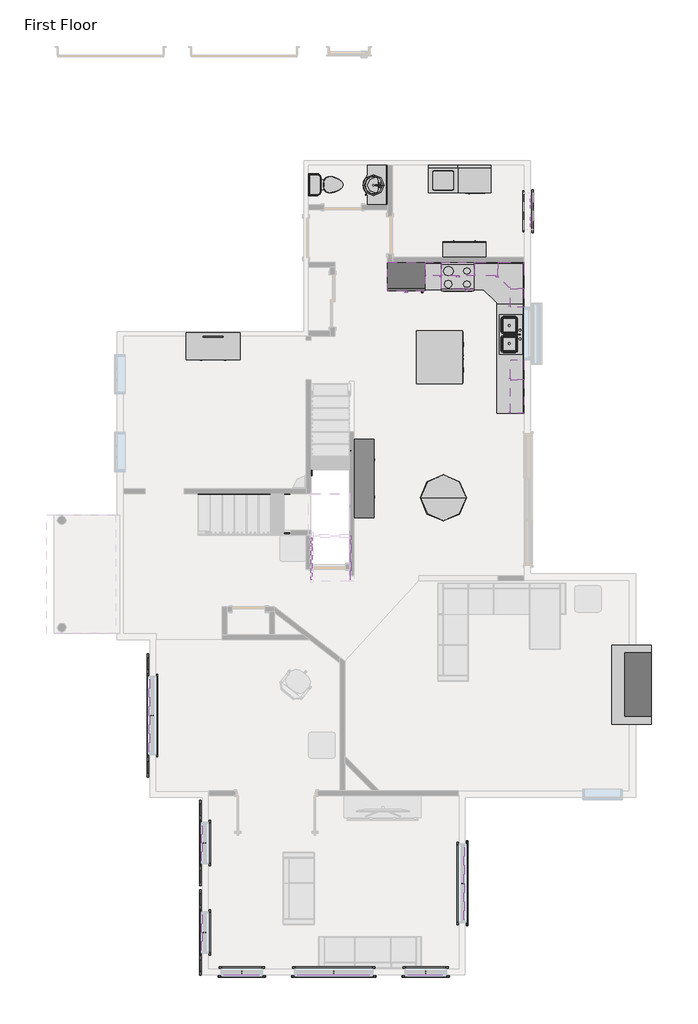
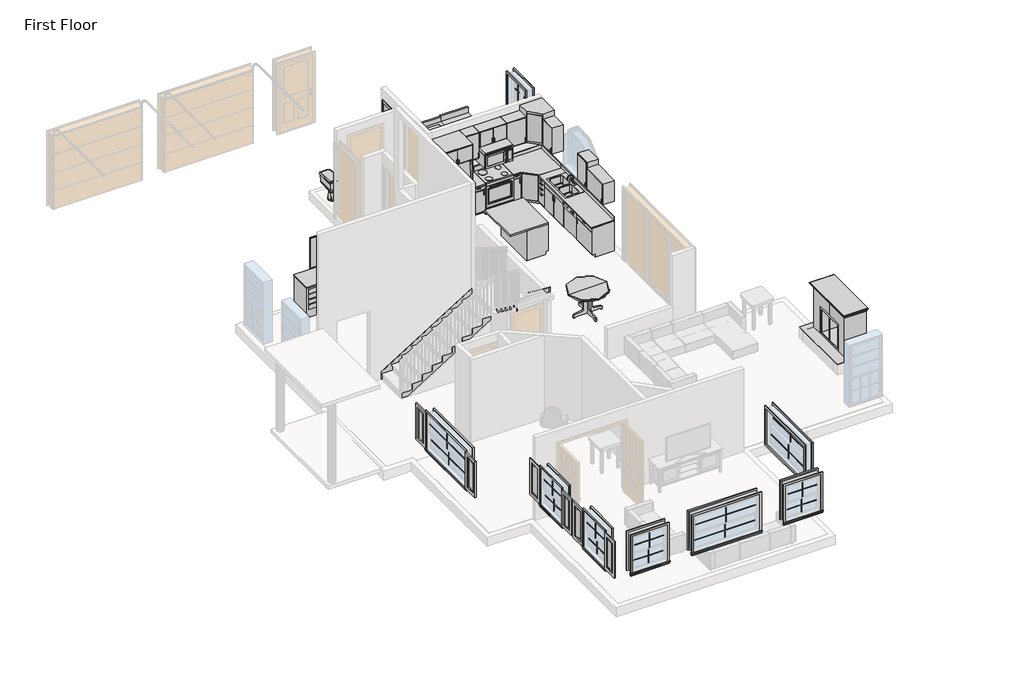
# One storey, part 3 of 3: 47 proxies, 24 furniture elements, 6 members, 2 flow terminals.
"""IFC4 building model written with IfcOpenShell, lengths in millimetres."""

from ifc_helpers import new_model, si_unit, frame, origin, place, context, project, spatial, polyline, outline, extrude, faceted_brep, transform, mapped, element, save
from components import proxy_45b28599, proxy_6b4a07a9, microwave_over_range_1483_microwave_over_range_1483_791a16b8, mirror_with_boarder_12900_mirror_with_boarder_12900_3f9398c7, muntin_pattern_2x2_muntin_pattern_2x2_7c75a8ce, muntin_pattern_2x2_muntin_pattern_2x2_8d1b6ffe, muntin_pattern_2x2_muntin_pattern_2x2_b3fe6957, muntin_pattern_2x2_muntin_pattern_2x2_3e0ecaf2, proxy_fbb4c072, proxy_033c6c51, shutter_4292_shutter_4292_2_a29cf403, stone_fireplace_14654_stone_fireplace_14654_19c01c53, trim_window_exterior_flat_with_sill_72c6e1b0, trim_window_exterior_flat_with_sill_e13d5450, trim_window_exterior_flat_with_sill_41619996, trim_window_interior_flat_picture_frame_62b75368, trim_window_interior_flat_picture_frame_689dbe4f, trim_window_interior_flat_picture_frame_51c85655, proxy_718fa39f, mirror_with_frame_739_ada_cf025913, flow_terminal_530ab181, toilet_domestic_3d_toilet_domestic_3d_f7549cf7, toilet_domestic_3d_toilet_domestic_3d_183bbd19, furniture_b0f89009, furniture_0fc2bd2a, furniture_0215fc4d, furniture_3b04147a, base_cabinet_4_drawers_03bd3035, base_cabinet_corner_unit_angled_bfd559e3, bathroom_round_vanity_1651_600x1100_34019e4a, counter_top_48_cfc3eecd, furniture_cf9d1cb4, furniture_9c8c6759, furniture_5d53dcfe, furniture_078ba9d8, furniture_7c473f12, round_table_22514_round_table_22514_44ccc18d, furniture_84be1c78, upper_cabinet_double_door_wall_2916ba14, furniture_f5f4f664, upper_cabinet_single_door_wall_1_5_1_4_63a5970b, upper_cabinet_single_door_wall_1_9_3_8_7fbd7801, furniture_13c6450d, furniture_02d81ec9, upper_cabinet_single_door_wall_2_6_3_4_3956a76a, vanity_cabinet_double_door_sink_unit_dcdcec85, wood_c3b25c64

model = new_model("IFC4")

# Units and contexts
model_context = context("Model", 3, world=origin())
ifc_project = project(units=[si_unit("LENGTHUNIT", "METRE", prefix="MILLI")], contexts=[model_context])

# Site, building, storey
site = spatial("IfcSite", under=ifc_project)
building = spatial("IfcBuilding", under=site)
storey = spatial("IfcBuildingStorey", under=building, Name="First Floor", Elevation=0.0)

# Proxies
placement = place(None, origin())
proxy_shape = proxy_45b28599(model_context)
element("IfcBuildingElementProxy", 1, Name="Dishwasher : 24\" x 24\" x 34\"", ObjectType="Dishwasher : 24\" x 24\" x 34\"", at=placement, inside=storey, context=model_context, shape_type="MappedRepresentation", body=[
    mapped(proxy_shape, transform((-1826.372664, 3218.9597382, 6.35), x_axis=(0.0, -1.0, 0.0), y_axis=(1.0, 0.0, 0.0), z_axis=(0.0, 0.0, 1.0))),
])
proxy_2_shape = proxy_6b4a07a9(model_context)
element("IfcBuildingElementProxy", 2, Name="Dryer : 30\" x 25\" x 35\"", ObjectType="Dryer : 30\" x 25\" x 35\"", at=placement, inside=storey, context=model_context, shape_type="MappedRepresentation", body=[
    mapped(proxy_2_shape, transform((-2826.3230555, 6890.7812659, 6.35), x_axis=(1.0, 0.0, 0.0), y_axis=(0.0, 1.0, 0.0), z_axis=(0.0, 0.0, 1.0))),
])
microwave_over_range_1483_microwave_over_range_1483_shape = microwave_over_range_1483_microwave_over_range_1483_791a16b8(model_context)
element("IfcBuildingElementProxy", 3, Name="Microwave_-_Over_Range_1483 : Microwave_-_Over_Range_1483", ObjectType="Microwave_-_Over_Range_1483 : Microwave_-_Over_Range_1483", at=placement, inside=storey, context=model_context, shape_type="MappedRepresentation", body=[
    mapped(microwave_over_range_1483_microwave_over_range_1483_shape, transform((-2758.4769279, 5192.5149395, 1320.8), x_axis=(1.0, 0.0, 0.0), y_axis=(0.0, 1.0, 0.0), z_axis=(0.0, 0.0, 1.0))),
])
mirror_with_boarder_12900_mirror_with_boarder_12900_shape = mirror_with_boarder_12900_mirror_with_boarder_12900_3f9398c7(model_context)
element("IfcBuildingElementProxy", 4, Name="Mirror_with_Boarder_12900 : Mirror_with_Boarder_12900", ObjectType="Mirror_with_Boarder_12900 : Mirror_with_Boarder_12900", at=placement, inside=storey, context=model_context, shape_type="MappedRepresentation", body=[
    mapped(mirror_with_boarder_12900_mirror_with_boarder_12900_shape, transform((-4369.7980992, 7067.3297697, 203.2), x_axis=(0.0, 1.0, 0.0), y_axis=(-1.0, 0.0, 0.0), z_axis=(0.0, 0.0, 1.0))),
])
muntin_pattern_2x2_muntin_pattern_2x2_shape = muntin_pattern_2x2_muntin_pattern_2x2_7c75a8ce(model_context)
element("IfcBuildingElementProxy", 5, Name="Muntin Pattern_2x2 : Muntin Pattern_2x2", ObjectType="Muntin Pattern_2x2 : Muntin Pattern_2x2", at=placement, inside=storey, context=model_context, shape_type="MappedRepresentation", body=[
    mapped(muntin_pattern_2x2_muntin_pattern_2x2_shape, transform((-8716.3730992, -8201.2452303, 1470.025), x_axis=(0.0, 1.0, 0.0), y_axis=(-1.0, 0.0, 0.0), z_axis=(0.0, 0.0, 1.0))),
])
element("IfcBuildingElementProxy", 6, Name="Muntin Pattern_2x2 : Muntin Pattern_2x2", ObjectType="Muntin Pattern_2x2 : Muntin Pattern_2x2", at=placement, inside=storey, context=model_context, shape_type="MappedRepresentation", body=[
    mapped(muntin_pattern_2x2_muntin_pattern_2x2_shape, transform((-8671.9230992, -8201.2452303, 990.6), x_axis=(0.0, 1.0, 0.0), y_axis=(-1.0, 0.0, 0.0), z_axis=(0.0, 0.0, 1.0))),
])
element("IfcBuildingElementProxy", 7, Name="Muntin Pattern_2x2 : Muntin Pattern_2x2", ObjectType="Muntin Pattern_2x2 : Muntin Pattern_2x2", at=placement, inside=storey, context=model_context, shape_type="MappedRepresentation", body=[
    mapped(muntin_pattern_2x2_muntin_pattern_2x2_shape, transform((-8716.3730992, -10277.6952303, 1470.025), x_axis=(0.0, 1.0, 0.0), y_axis=(-1.0, 0.0, 0.0), z_axis=(0.0, 0.0, 1.0))),
])
element("IfcBuildingElementProxy", 8, Name="Muntin Pattern_2x2 : Muntin Pattern_2x2", ObjectType="Muntin Pattern_2x2 : Muntin Pattern_2x2", at=placement, inside=storey, context=model_context, shape_type="MappedRepresentation", body=[
    mapped(muntin_pattern_2x2_muntin_pattern_2x2_shape, transform((-8671.9230992, -10277.6952303, 990.6), x_axis=(0.0, 1.0, 0.0), y_axis=(-1.0, 0.0, 0.0), z_axis=(0.0, 0.0, 1.0))),
])
element("IfcBuildingElementProxy", 9, Name="Muntin Pattern_2x2 : Muntin Pattern_2x2", ObjectType="Muntin Pattern_2x2 : Muntin Pattern_2x2", at=placement, inside=storey, context=model_context, shape_type="MappedRepresentation", body=[
    mapped(muntin_pattern_2x2_muntin_pattern_2x2_shape, transform((-7808.3230992, -11247.6577303, 1470.025), x_axis=(-1.0, 0.0, 0.0), y_axis=(0.0, -1.0, 0.0), z_axis=(0.0, 0.0, 1.0))),
])
element("IfcBuildingElementProxy", 10, Name="Muntin Pattern_2x2 : Muntin Pattern_2x2", ObjectType="Muntin Pattern_2x2 : Muntin Pattern_2x2", at=placement, inside=storey, context=model_context, shape_type="MappedRepresentation", body=[
    mapped(muntin_pattern_2x2_muntin_pattern_2x2_shape, transform((-7808.3230992, -11203.2077303, 990.6), x_axis=(-1.0, 0.0, 0.0), y_axis=(0.0, -1.0, 0.0), z_axis=(0.0, 0.0, 1.0))),
])
element("IfcBuildingElementProxy", 11, Name="Muntin Pattern_2x2 : Muntin Pattern_2x2", ObjectType="Muntin Pattern_2x2 : Muntin Pattern_2x2", at=placement, inside=storey, context=model_context, shape_type="MappedRepresentation", body=[
    mapped(muntin_pattern_2x2_muntin_pattern_2x2_shape, transform((-3541.1230992, -11247.6577303, 1470.025), x_axis=(-1.0, 0.0, 0.0), y_axis=(0.0, -1.0, 0.0), z_axis=(0.0, 0.0, 1.0))),
])
element("IfcBuildingElementProxy", 12, Name="Muntin Pattern_2x2 : Muntin Pattern_2x2", ObjectType="Muntin Pattern_2x2 : Muntin Pattern_2x2", at=placement, inside=storey, context=model_context, shape_type="MappedRepresentation", body=[
    mapped(muntin_pattern_2x2_muntin_pattern_2x2_shape, transform((-3541.1230992, -11203.2077303, 990.6), x_axis=(-1.0, 0.0, 0.0), y_axis=(0.0, -1.0, 0.0), z_axis=(0.0, 0.0, 1.0))),
])
muntin_pattern_2x2_muntin_pattern_2x2_2_shape = muntin_pattern_2x2_muntin_pattern_2x2_8d1b6ffe(model_context)
element("IfcBuildingElementProxy", 13, Name="Muntin Pattern_2x2 : Muntin Pattern_2x2", ObjectType="Muntin Pattern_2x2 : Muntin Pattern_2x2", at=placement, inside=storey, context=model_context, shape_type="MappedRepresentation", body=[
    mapped(muntin_pattern_2x2_muntin_pattern_2x2_2_shape, transform((-5674.7230992, -11247.6577303, 1470.025), x_axis=(-1.0, 0.0, 0.0), y_axis=(0.0, -1.0, 0.0), z_axis=(0.0, 0.0, 1.0))),
])
element("IfcBuildingElementProxy", 14, Name="Muntin Pattern_2x2 : Muntin Pattern_2x2", ObjectType="Muntin Pattern_2x2 : Muntin Pattern_2x2", at=placement, inside=storey, context=model_context, shape_type="MappedRepresentation", body=[
    mapped(muntin_pattern_2x2_muntin_pattern_2x2_2_shape, transform((-5674.7230992, -11203.2077303, 990.6), x_axis=(-1.0, 0.0, 0.0), y_axis=(0.0, -1.0, 0.0), z_axis=(0.0, 0.0, 1.0))),
])
element("IfcBuildingElementProxy", 15, Name="Muntin Pattern_2x2 : Muntin Pattern_2x2", ObjectType="Muntin Pattern_2x2 : Muntin Pattern_2x2", at=placement, inside=storey, context=model_context, shape_type="MappedRepresentation", body=[
    mapped(muntin_pattern_2x2_muntin_pattern_2x2_2_shape, transform((-2633.0730992, -9137.8702303, 1470.025), x_axis=(0.0, -1.0, 0.0), y_axis=(1.0, 0.0, 0.0), z_axis=(0.0, 0.0, 1.0))),
])
element("IfcBuildingElementProxy", 16, Name="Muntin Pattern_2x2 : Muntin Pattern_2x2", ObjectType="Muntin Pattern_2x2 : Muntin Pattern_2x2", at=placement, inside=storey, context=model_context, shape_type="MappedRepresentation", body=[
    mapped(muntin_pattern_2x2_muntin_pattern_2x2_2_shape, transform((-2677.5230992, -9137.8702303, 990.6), x_axis=(0.0, -1.0, 0.0), y_axis=(1.0, 0.0, 0.0), z_axis=(0.0, 0.0, 1.0))),
])
element("IfcBuildingElementProxy", 17, Name="Muntin Pattern_2x2 : Muntin Pattern_2x2", ObjectType="Muntin Pattern_2x2 : Muntin Pattern_2x2", at=placement, inside=storey, context=model_context, shape_type="MappedRepresentation", body=[
    mapped(muntin_pattern_2x2_muntin_pattern_2x2_2_shape, transform((-9935.5730992, -5240.5577303, 1470.025), x_axis=(0.0, 1.0, 0.0), y_axis=(-1.0, 0.0, 0.0), z_axis=(0.0, 0.0, 1.0))),
])
element("IfcBuildingElementProxy", 18, Name="Muntin Pattern_2x2 : Muntin Pattern_2x2", ObjectType="Muntin Pattern_2x2 : Muntin Pattern_2x2", at=placement, inside=storey, context=model_context, shape_type="MappedRepresentation", body=[
    mapped(muntin_pattern_2x2_muntin_pattern_2x2_2_shape, transform((-9891.1230992, -5240.5577303, 990.6), x_axis=(0.0, 1.0, 0.0), y_axis=(-1.0, 0.0, 0.0), z_axis=(0.0, 0.0, 1.0))),
])
muntin_pattern_2x2_muntin_pattern_2x2_3_shape = muntin_pattern_2x2_muntin_pattern_2x2_b3fe6957(model_context)
element("IfcBuildingElementProxy", 19, Name="Muntin Pattern_2x2 : Muntin Pattern_2x2", ObjectType="Muntin Pattern_2x2 : Muntin Pattern_2x2", at=placement, inside=storey, context=model_context, shape_type="MappedRepresentation", body=[
    mapped(muntin_pattern_2x2_muntin_pattern_2x2_3_shape, transform((-1083.6730992, 6672.0422697, 1289.05), x_axis=(0.0, -1.0, 0.0), y_axis=(1.0, 0.0, 0.0), z_axis=(0.0, 0.0, 1.0))),
])
muntin_pattern_2x2_muntin_pattern_2x2_4_shape = muntin_pattern_2x2_muntin_pattern_2x2_3e0ecaf2(model_context)
element("IfcBuildingElementProxy", 20, Name="Muntin Pattern_2x2 : Muntin Pattern_2x2", ObjectType="Muntin Pattern_2x2 : Muntin Pattern_2x2", at=placement, inside=storey, context=model_context, shape_type="MappedRepresentation", body=[
    mapped(muntin_pattern_2x2_muntin_pattern_2x2_4_shape, transform((-1083.6730992, 6243.4172697, 1289.05), x_axis=(0.0, 1.0, 0.0), y_axis=(-1.0, 0.0, 0.0), z_axis=(0.0, 0.0, 1.0))),
])
proxy_3_shape = proxy_fbb4c072(model_context)
element("IfcBuildingElementProxy", 21, Name="Range : 30\" x 26\"", ObjectType="Range : 30\" x 26\"", at=placement, inside=storey, context=model_context, shape_type="MappedRepresentation", body=[
    mapped(proxy_3_shape, transform((-3177.6499204, 4614.6422697, 6.35), x_axis=(1.0, 0.0, 0.0), y_axis=(0.0, 1.0, 0.0), z_axis=(0.0, 0.0, 1.0))),
])
proxy_4_shape = proxy_033c6c51(model_context)
element("IfcBuildingElementProxy", 22, Name="Refrigerator : 35\" x 26\" RH", ObjectType="Refrigerator : 35\" x 26\" RH", at=placement, inside=storey, context=model_context, shape_type="MappedRepresentation", body=[
    mapped(proxy_4_shape, transform((-3988.7980992, 4959.5182982, 0.0), x_axis=(1.0, 0.0, 0.0), y_axis=(0.0, 1.0, 0.0), z_axis=(0.0, 0.0, 1.0))),
])
shutter_4292_shutter_4292_2_shape = shutter_4292_shutter_4292_2_a29cf403(model_context)
element("IfcBuildingElementProxy", 23, Name="Shutter_4292 : Shutter_4292 2", ObjectType="Shutter_4292 : Shutter_4292 2", at=placement, inside=storey, context=model_context, shape_type="MappedRepresentation", body=[
    mapped(shutter_4292_shutter_4292_2_shape, transform((-9880.0105992, -6213.6952303, 0.0), x_axis=(0.0, 1.0, 0.0), y_axis=(-1.0, 0.0, 0.0), z_axis=(0.0, 0.0, 1.0))),
])
element("IfcBuildingElementProxy", 24, Name="Shutter_4292 : Shutter_4292 2", ObjectType="Shutter_4292 : Shutter_4292 2", at=placement, inside=storey, context=model_context, shape_type="MappedRepresentation", body=[
    mapped(shutter_4292_shutter_4292_2_shape, transform((-9880.0105992, -3813.3952303, 0.0), x_axis=(0.0, 1.0, 0.0), y_axis=(-1.0, 0.0, 0.0), z_axis=(0.0, 0.0, 1.0))),
])
element("IfcBuildingElementProxy", 25, Name="Shutter_4292 : Shutter_4292 2", ObjectType="Shutter_4292 : Shutter_4292 2", at=placement, inside=storey, context=model_context, shape_type="MappedRepresentation", body=[
    mapped(shutter_4292_shutter_4292_2_shape, transform((-8660.8105992, -8740.9952303, 0.0), x_axis=(0.0, 1.0, 0.0), y_axis=(-1.0, 0.0, 0.0), z_axis=(0.0, 0.0, 1.0))),
])
element("IfcBuildingElementProxy", 26, Name="Shutter_4292 : Shutter_4292 2", ObjectType="Shutter_4292 : Shutter_4292 2", at=placement, inside=storey, context=model_context, shape_type="MappedRepresentation", body=[
    mapped(shutter_4292_shutter_4292_2_shape, transform((-8660.8105992, -10817.4452303, 0.0), x_axis=(0.0, 1.0, 0.0), y_axis=(-1.0, 0.0, 0.0), z_axis=(0.0, 0.0, 1.0))),
])
element("IfcBuildingElementProxy", 27, Name="Shutter_4292 : Shutter_4292 2", ObjectType="Shutter_4292 : Shutter_4292 2", at=placement, inside=storey, context=model_context, shape_type="MappedRepresentation", body=[
    mapped(shutter_4292_shutter_4292_2_shape, transform((-8660.8105992, -9280.7452303, 0.0), x_axis=(0.0, 1.0, 0.0), y_axis=(-1.0, 0.0, 0.0), z_axis=(0.0, 0.0, 1.0))),
])
element("IfcBuildingElementProxy", 28, Name="Shutter_4292 : Shutter_4292 2", ObjectType="Shutter_4292 : Shutter_4292 2", at=placement, inside=storey, context=model_context, shape_type="MappedRepresentation", body=[
    mapped(shutter_4292_shutter_4292_2_shape, transform((-8660.8105992, -7204.2952303, 0.0), x_axis=(0.0, 1.0, 0.0), y_axis=(-1.0, 0.0, 0.0), z_axis=(0.0, 0.0, 1.0))),
])
stone_fireplace_14654_stone_fireplace_14654_shape = stone_fireplace_14654_stone_fireplace_14654_19c01c53(model_context)
element("IfcBuildingElementProxy", 29, Name="Stone_fireplace_14654 : Stone_fireplace_14654", ObjectType="Stone_fireplace_14654 : Stone_fireplace_14654", at=placement, inside=storey, context=model_context, shape_type="MappedRepresentation", body=[
    mapped(stone_fireplace_14654_stone_fireplace_14654_shape, transform((1240.4269008, -4526.1827303, 311.15), x_axis=(0.0, -1.0, 0.0), y_axis=(1.0, 0.0, 0.0), z_axis=(0.0, 0.0, 1.0))),
])
trim_window_exterior_flat_with_sill_shape = trim_window_exterior_flat_with_sill_72c6e1b0(model_context)
element("IfcBuildingElementProxy", 30, Name="Trim-Window-Exterior-Flat : with Sill", ObjectType="Trim-Window-Exterior-Flat : with Sill", at=placement, inside=storey, context=model_context, shape_type="MappedRepresentation", body=[
    mapped(trim_window_exterior_flat_with_sill_shape, transform((-8751.2980992, -8201.2452303, 1981.2), x_axis=(0.0, -1.0, 0.0), y_axis=(0.0, 0.0, 1.0), z_axis=(-1.0, 0.0, 0.0))),
])
element("IfcBuildingElementProxy", 31, Name="Trim-Window-Exterior-Flat : with Sill", ObjectType="Trim-Window-Exterior-Flat : with Sill", at=placement, inside=storey, context=model_context, shape_type="MappedRepresentation", body=[
    mapped(trim_window_exterior_flat_with_sill_shape, transform((-8751.2980992, -10277.6952303, 1981.2), x_axis=(0.0, -1.0, 0.0), y_axis=(0.0, 0.0, 1.0), z_axis=(-1.0, 0.0, 0.0))),
])
element("IfcBuildingElementProxy", 32, Name="Trim-Window-Exterior-Flat : with Sill", ObjectType="Trim-Window-Exterior-Flat : with Sill", at=placement, inside=storey, context=model_context, shape_type="MappedRepresentation", body=[
    mapped(trim_window_exterior_flat_with_sill_shape, transform((-7808.3230992, -11282.5827303, 1981.2), x_axis=(1.0, 0.0, 0.0), y_axis=(0.0, 0.0, 1.0), z_axis=(0.0, -1.0, 0.0))),
])
element("IfcBuildingElementProxy", 33, Name="Trim-Window-Exterior-Flat : with Sill", ObjectType="Trim-Window-Exterior-Flat : with Sill", at=placement, inside=storey, context=model_context, shape_type="MappedRepresentation", body=[
    mapped(trim_window_exterior_flat_with_sill_shape, transform((-3541.1230992, -11282.5827303, 1981.2), x_axis=(1.0, 0.0, 0.0), y_axis=(0.0, 0.0, 1.0), z_axis=(0.0, -1.0, 0.0))),
])
trim_window_exterior_flat_with_sill_2_shape = trim_window_exterior_flat_with_sill_e13d5450(model_context)
element("IfcBuildingElementProxy", 34, Name="Trim-Window-Exterior-Flat : with Sill", ObjectType="Trim-Window-Exterior-Flat : with Sill", at=placement, inside=storey, context=model_context, shape_type="MappedRepresentation", body=[
    mapped(trim_window_exterior_flat_with_sill_2_shape, transform((-5674.7230992, -11282.5827303, 1981.2), x_axis=(1.0, 0.0, 0.0), y_axis=(0.0, 0.0, 1.0), z_axis=(0.0, -1.0, 0.0))),
])
element("IfcBuildingElementProxy", 35, Name="Trim-Window-Exterior-Flat : with Sill", ObjectType="Trim-Window-Exterior-Flat : with Sill", at=placement, inside=storey, context=model_context, shape_type="MappedRepresentation", body=[
    mapped(trim_window_exterior_flat_with_sill_2_shape, transform((-2598.1480992, -9137.8702303, 1981.2), x_axis=(0.0, 1.0, 0.0), y_axis=(0.0, 0.0, 1.0), z_axis=(1.0, 0.0, 0.0))),
])
element("IfcBuildingElementProxy", 36, Name="Trim-Window-Exterior-Flat : with Sill", ObjectType="Trim-Window-Exterior-Flat : with Sill", at=placement, inside=storey, context=model_context, shape_type="MappedRepresentation", body=[
    mapped(trim_window_exterior_flat_with_sill_2_shape, transform((-9970.4980992, -5240.5577303, 1981.2), x_axis=(0.0, -1.0, 0.0), y_axis=(0.0, 0.0, 1.0), z_axis=(-1.0, 0.0, 0.0))),
])
trim_window_exterior_flat_with_sill_3_shape = trim_window_exterior_flat_with_sill_41619996(model_context)
element("IfcBuildingElementProxy", 37, Name="Trim-Window-Exterior-Flat : with Sill", ObjectType="Trim-Window-Exterior-Flat : with Sill", at=placement, inside=storey, context=model_context, shape_type="MappedRepresentation", body=[
    mapped(trim_window_exterior_flat_with_sill_3_shape, transform((-1074.1480992, 6457.7297697, 2133.6), x_axis=(0.0, 1.0, 0.0), y_axis=(0.0, 0.0, 1.0), z_axis=(1.0, 0.0, 0.0))),
])
trim_window_interior_flat_picture_frame_shape = trim_window_interior_flat_picture_frame_62b75368(model_context)
element("IfcBuildingElementProxy", 38, Name="Trim-Window-Interior-Flat : Picture Frame", ObjectType="Trim-Window-Interior-Flat : Picture Frame", at=placement, inside=storey, context=model_context, shape_type="MappedRepresentation", body=[
    mapped(trim_window_interior_flat_picture_frame_shape, transform((-8570.3230992, -8201.2452303, 1981.2), x_axis=(0.0, 1.0, 0.0), y_axis=(0.0, 0.0, 1.0), z_axis=(1.0, 0.0, 0.0))),
])
element("IfcBuildingElementProxy", 39, Name="Trim-Window-Interior-Flat : Picture Frame", ObjectType="Trim-Window-Interior-Flat : Picture Frame", at=placement, inside=storey, context=model_context, shape_type="MappedRepresentation", body=[
    mapped(trim_window_interior_flat_picture_frame_shape, transform((-8570.3230992, -10277.6952303, 1981.2), x_axis=(0.0, 1.0, 0.0), y_axis=(0.0, 0.0, 1.0), z_axis=(1.0, 0.0, 0.0))),
])
element("IfcBuildingElementProxy", 40, Name="Trim-Window-Interior-Flat : Picture Frame", ObjectType="Trim-Window-Interior-Flat : Picture Frame", at=placement, inside=storey, context=model_context, shape_type="MappedRepresentation", body=[
    mapped(trim_window_interior_flat_picture_frame_shape, transform((-7808.3230992, -11101.6077303, 1981.2), x_axis=(-1.0, 0.0, 0.0), y_axis=(0.0, 0.0, 1.0), z_axis=(0.0, 1.0, 0.0))),
])
element("IfcBuildingElementProxy", 41, Name="Trim-Window-Interior-Flat : Picture Frame", ObjectType="Trim-Window-Interior-Flat : Picture Frame", at=placement, inside=storey, context=model_context, shape_type="MappedRepresentation", body=[
    mapped(trim_window_interior_flat_picture_frame_shape, transform((-3541.1230992, -11101.6077303, 1981.2), x_axis=(-1.0, 0.0, 0.0), y_axis=(0.0, 0.0, 1.0), z_axis=(0.0, 1.0, 0.0))),
])
trim_window_interior_flat_picture_frame_2_shape = trim_window_interior_flat_picture_frame_689dbe4f(model_context)
element("IfcBuildingElementProxy", 42, Name="Trim-Window-Interior-Flat : Picture Frame", ObjectType="Trim-Window-Interior-Flat : Picture Frame", at=placement, inside=storey, context=model_context, shape_type="MappedRepresentation", body=[
    mapped(trim_window_interior_flat_picture_frame_2_shape, transform((-5674.7230992, -11101.6077303, 1981.2), x_axis=(-1.0, 0.0, 0.0), y_axis=(0.0, 0.0, 1.0), z_axis=(0.0, 1.0, 0.0))),
])
element("IfcBuildingElementProxy", 43, Name="Trim-Window-Interior-Flat : Picture Frame", ObjectType="Trim-Window-Interior-Flat : Picture Frame", at=placement, inside=storey, context=model_context, shape_type="MappedRepresentation", body=[
    mapped(trim_window_interior_flat_picture_frame_2_shape, transform((-2779.1230992, -9137.8702303, 1981.2), x_axis=(0.0, -1.0, 0.0), y_axis=(0.0, 0.0, 1.0), z_axis=(-1.0, 0.0, 0.0))),
])
element("IfcBuildingElementProxy", 44, Name="Trim-Window-Interior-Flat : Picture Frame", ObjectType="Trim-Window-Interior-Flat : Picture Frame", at=placement, inside=storey, context=model_context, shape_type="MappedRepresentation", body=[
    mapped(trim_window_interior_flat_picture_frame_2_shape, transform((-9789.5230992, -5240.5577303, 1981.2), x_axis=(0.0, 1.0, 0.0), y_axis=(0.0, 0.0, 1.0), z_axis=(1.0, 0.0, 0.0))),
])
trim_window_interior_flat_picture_frame_3_shape = trim_window_interior_flat_picture_frame_51c85655(model_context)
element("IfcBuildingElementProxy", 45, Name="Trim-Window-Interior-Flat : Picture Frame", ObjectType="Trim-Window-Interior-Flat : Picture Frame", at=placement, inside=storey, context=model_context, shape_type="MappedRepresentation", body=[
    mapped(trim_window_interior_flat_picture_frame_3_shape, transform((-1255.1230992, 6457.7297697, 2133.6), x_axis=(0.0, -1.0, 0.0), y_axis=(0.0, 0.0, 1.0), z_axis=(-1.0, 0.0, 0.0))),
])
proxy_5_shape = proxy_718fa39f(model_context)
element("IfcBuildingElementProxy", 46, Name="Washer : 27\" x 25\" x 35\"", ObjectType="Washer : 27\" x 25\" x 35\"", at=placement, inside=storey, context=model_context, shape_type="MappedRepresentation", body=[
    mapped(proxy_5_shape, transform((-3553.5530677, 6926.2927049, 6.35), x_axis=(1.0, 0.0, 0.0), y_axis=(0.0, 1.0, 0.0), z_axis=(0.0, 0.0, 1.0))),
])
mirror_with_frame_739_ada_shape = mirror_with_frame_739_ada_cf025913(model_context)
element("IfcBuildingElementProxy", 47, Name="mirror_with_frame_739 : ADA", ObjectType="mirror_with_frame_739 : ADA", at=placement, inside=storey, context=model_context, shape_type="MappedRepresentation", body=[
    mapped(mirror_with_frame_739_ada_shape, transform((-8452.1902981, 3620.8672697, 0.0), x_axis=(-1.0, 0.0, 0.0), y_axis=(0.0, -1.0, 0.0), z_axis=(0.0, 0.0, 1.0))),
])

# Flow terminals
flow_terminal_shape = flow_terminal_530ab181(model_context)
element("IfcFlowTerminal", 48, ObjectType="Sink Kitchen-Double : 42\" x 21\"", at=placement, inside=storey, context=model_context, shape_type="MappedRepresentation", body=[
    mapped(flow_terminal_shape, transform((-1562.2685003, 3614.3315102, 6.35), x_axis=(0.0, -1.0, 0.0), y_axis=(1.0, 0.0, 0.0), z_axis=(0.0, 0.0, 1.0))),
])
toilet_domestic_3d_toilet_domestic_3d_shape = toilet_domestic_3d_toilet_domestic_3d_f7549cf7(model_context)
toilet_domestic_3d_toilet_domestic_3d_2_shape = toilet_domestic_3d_toilet_domestic_3d_183bbd19(model_context)
element("IfcFlowTerminal", 49, ObjectType="Toilet-Domestic-3D : Toilet-Domestic-3D", at=placement, inside=storey, context=model_context, shape_type="MappedRepresentation", body=[
    mapped(toilet_domestic_3d_toilet_domestic_3d_shape, transform((-5760.4480992, 7075.2672697, 6.35), x_axis=(0.0, 1.0, 0.0), y_axis=(-1.0, 0.0, 0.0), z_axis=(0.0, 0.0, 1.0))),
    mapped(toilet_domestic_3d_toilet_domestic_3d_2_shape, transform((-5760.4480992, 7075.2672697, 6.35), x_axis=(0.0, 1.0, 0.0), y_axis=(-1.0, 0.0, 0.0), z_axis=(0.0, 0.0, 1.0))),
])

# Furniture
furniture_shape = furniture_b0f89009(model_context)
element("IfcFurniture", 50, ObjectType="Base Cabinet-Single Door & Drawer : WOODER", at=placement, inside=storey, context=model_context, shape_type="MappedRepresentation", body=[
    mapped(furniture_shape, transform((-2311.3563753, 5275.0422697, 6.35), x_axis=(1.0, 0.0, 0.0), y_axis=(0.0, 1.0, 0.0), z_axis=(0.0, 0.0, 1.0))),
])
furniture_2_shape = furniture_0fc2bd2a(model_context)
element("IfcFurniture", 51, ObjectType="Base Cabinet-Single Door & Drawer : WOODE", at=placement, inside=storey, context=model_context, shape_type="MappedRepresentation", body=[
    mapped(furniture_2_shape, transform((-3378.8858041, 5275.0422697, 6.35), x_axis=(1.0, 0.0, 0.0), y_axis=(0.0, 1.0, 0.0), z_axis=(0.0, 0.0, 1.0))),
])
furniture_3_shape = furniture_0215fc4d(model_context)
element("IfcFurniture", 52, ObjectType="IKEA_low_level_drawer_unit_6409.0001 : IKEA_low_level_drawer_unit_6409.0001", at=placement, inside=storey, context=model_context, shape_type="MappedRepresentation", body=[
    mapped(furniture_3_shape, transform((-2637.8355992, 5736.3422697, 6.35), x_axis=(-1.0, 0.0, 0.0), y_axis=(0.0, -1.0, 0.0), z_axis=(0.0, 0.0, 1.0))),
])
furniture_4_shape = furniture_3b04147a(model_context)
element("IfcFurniture", 53, ObjectType="Base Cabinet-Double Door & 2 Drawer : 48\"", at=placement, inside=storey, context=model_context, shape_type="MappedRepresentation", body=[
    mapped(furniture_4_shape, transform((-3298.2355992, 3090.3299746, 6.35), x_axis=(0.0, -1.0, 0.0), y_axis=(1.0, 0.0, 0.0), z_axis=(0.0, 0.0, 1.0))),
])
base_cabinet_4_drawers_shape = base_cabinet_4_drawers_03bd3035(model_context)
element("IfcFurniture", 54, ObjectType="Base Cabinet-4 Drawers : WOODF", at=placement, inside=storey, context=model_context, shape_type="MappedRepresentation", body=[
    mapped(base_cabinet_4_drawers_shape, transform((-1255.1230992, 4226.9799746, 6.35), x_axis=(0.0, -1.0, 0.0), y_axis=(1.0, 0.0, 0.0), z_axis=(0.0, 0.0, 1.0))),
])
base_cabinet_corner_unit_angled_shape = base_cabinet_corner_unit_angled_bfd559e3(model_context)
element("IfcFurniture", 55, ObjectType="Base Cabinet-Corner Unit-Angled : WOODWFR", at=placement, inside=storey, context=model_context, shape_type="MappedRepresentation", body=[
    mapped(base_cabinet_corner_unit_angled_shape, transform((-1781.8608041, 5275.0422697, 6.35), x_axis=(1.0, 0.0, 0.0), y_axis=(0.0, 1.0, 0.0), z_axis=(0.0, 0.0, 1.0))),
])
bathroom_round_vanity_1651_600x1100_shape = bathroom_round_vanity_1651_600x1100_34019e4a(model_context)
element("IfcFurniture", 56, ObjectType="Bathroom_Round_Vanity_1651 : 600x1100", at=placement, inside=storey, context=model_context, shape_type="MappedRepresentation", body=[
    mapped(bathroom_round_vanity_1651_600x1100_shape, transform((-4426.9480992, 7160.6799746, 6.35), x_axis=(0.0, -1.0, 0.0), y_axis=(1.0, 0.0, 0.0), z_axis=(0.0, 0.0, 1.0))),
])
counter_top_48_shape = counter_top_48_cfc3eecd(model_context)
element("IfcFurniture", 57, ObjectType="Counter Top : 48", at=placement, inside=storey, context=model_context, shape_type="MappedRepresentation", body=[
    mapped(counter_top_48_shape, transform((-3755.4355992, 3662.4545647, 6.35), x_axis=(0.0, 1.0, 0.0), y_axis=(-1.0, 0.0, 0.0), z_axis=(0.0, 0.0, 1.0))),
])
furniture_5_shape = furniture_cf9d1cb4(model_context)
element("IfcFurniture", 58, ObjectType="Counter Top w Sink Hole : 24\" Depth", at=placement, inside=storey, context=model_context, shape_type="MappedRepresentation", body=[
    mapped(furniture_5_shape, transform((-1255.1230992, 3099.8549746, 6.35), x_axis=(0.0, -1.0, 0.0), y_axis=(1.0, 0.0, 0.0), z_axis=(0.0, 0.0, 1.0))),
])
furniture_6_shape = furniture_9c8c6759(model_context)
element("IfcFurniture", 59, ObjectType="Counter Top-L Shaped 2 : 24\" Depth", at=placement, inside=storey, context=model_context, shape_type="MappedRepresentation", body=[
    mapped(furniture_6_shape, transform((-1255.1230992, 4074.5799746, 6.35), x_axis=(0.0, -1.0, 0.0), y_axis=(1.0, 0.0, 0.0), z_axis=(0.0, 0.0, 1.0))),
])
furniture_7_shape = furniture_5d53dcfe(model_context)
element("IfcFurniture", 60, ObjectType="Counter Top.0001 : 24\" Depth", at=placement, inside=storey, context=model_context, shape_type="MappedRepresentation", body=[
    mapped(furniture_7_shape, transform((-2350.1858041, 5275.0422697, 6.35), x_axis=(1.0, 0.0, 0.0), y_axis=(0.0, 1.0, 0.0), z_axis=(0.0, 0.0, 1.0))),
])
furniture_8_shape = furniture_078ba9d8(model_context)
element("IfcFurniture", 61, ObjectType="Dresser : 48\" x 60\" x 24\" 2", at=placement, inside=storey, context=model_context, shape_type="MappedRepresentation", body=[
    mapped(furniture_8_shape, transform((-8205.8798394, 3695.1052238, 6.35), x_axis=(1.0, 0.0, 0.0), y_axis=(0.0, 1.0, 0.0), z_axis=(0.0, 0.0, 1.0))),
])
furniture_9_shape = furniture_7c473f12(model_context)
element("IfcFurniture", 62, ObjectType="Dresser : 72\" x 60\" x 18\"", at=placement, inside=storey, context=model_context, shape_type="MappedRepresentation", body=[
    mapped(furniture_9_shape, transform((-5333.0360533, 529.0232473, 6.35), x_axis=(0.0, 1.0, 0.0), y_axis=(-1.0, 0.0, 0.0), z_axis=(0.0, 0.0, 1.0))),
])
round_table_22514_round_table_22514_shape = round_table_22514_round_table_22514_44ccc18d(model_context)
element("IfcFurniture", 63, ObjectType="Round_Table_22514 : Round_Table_22514", at=placement, inside=storey, context=model_context, shape_type="MappedRepresentation", body=[
    mapped(round_table_22514_round_table_22514_shape, transform((-3127.2592668, -189.1327303, 6.35), x_axis=(1.0, 0.0, 0.0), y_axis=(0.0, 1.0, 0.0), z_axis=(0.0, 0.0, 1.0))),
])
furniture_10_shape = furniture_84be1c78(model_context)
element("IfcFurniture", 64, ObjectType="Upper Cabinet-Corner Unit-Wall : 12\" Depth Tall", at=placement, inside=storey, context=model_context, shape_type="MappedRepresentation", body=[
    mapped(furniture_10_shape, transform((-1301.5519364, 5332.1922697, 254.0), x_axis=(-1.0, 0.0, 0.0), y_axis=(0.0, -1.0, 0.0), z_axis=(0.0, 0.0, 1.0))),
])
upper_cabinet_double_door_wall_shape = upper_cabinet_double_door_wall_2916ba14(model_context)
element("IfcFurniture", 65, ObjectType="Upper Cabinet-Double Door-Wall : 34 1/2\" Thiccc", at=placement, inside=storey, context=model_context, shape_type="MappedRepresentation", body=[
    mapped(upper_cabinet_double_door_wall_shape, transform((-3959.0269364, 5332.1922697, 101.6), x_axis=(-1.0, 0.0, 0.0), y_axis=(0.0, -1.0, 0.0), z_axis=(0.0, 0.0, 1.0))),
])
furniture_11_shape = furniture_f5f4f664(model_context)
element("IfcFurniture", 66, ObjectType="Upper Cabinet-Double Door-Wall : 30\" Short", at=placement, inside=storey, context=model_context, shape_type="MappedRepresentation", body=[
    mapped(furniture_11_shape, transform((-2758.8769364, 5332.1922697, 101.6), x_axis=(-1.0, 0.0, 0.0), y_axis=(0.0, -1.0, 0.0), z_axis=(0.0, 0.0, 1.0))),
])
upper_cabinet_single_door_wall_1_5_1_4_shape = upper_cabinet_single_door_wall_1_5_1_4_63a5970b(model_context)
element("IfcFurniture", 67, ObjectType="Upper Cabinet-Single Door-Wall : 1 5 1/4", at=placement, inside=storey, context=model_context, shape_type="MappedRepresentation", body=[
    mapped(upper_cabinet_single_door_wall_1_5_1_4_shape, transform((-1164.6355992, 4416.5961069, 101.6), x_axis=(0.0, 1.0, 0.0), y_axis=(-1.0, 0.0, 0.0), z_axis=(0.0, 0.0, 1.0))),
])
upper_cabinet_single_door_wall_1_9_3_8_shape = upper_cabinet_single_door_wall_1_9_3_8_7fbd7801(model_context)
element("IfcFurniture", 68, ObjectType="Upper Cabinet-Single Door-Wall : 1 9 3/8", at=placement, inside=storey, context=model_context, shape_type="MappedRepresentation", body=[
    mapped(upper_cabinet_single_door_wall_1_9_3_8_shape, transform((-2106.4144364, 5332.1922697, 101.6), x_axis=(-1.0, 0.0, 0.0), y_axis=(0.0, -1.0, 0.0), z_axis=(0.0, 0.0, 1.0))),
])
furniture_12_shape = furniture_13c6450d(model_context)
element("IfcFurniture", 69, ObjectType="Upper Cabinet-Single Door-Wall : 15\"", at=placement, inside=storey, context=model_context, shape_type="MappedRepresentation", body=[
    mapped(furniture_12_shape, transform((-3330.3769364, 5332.1922697, 101.6), x_axis=(-1.0, 0.0, 0.0), y_axis=(0.0, -1.0, 0.0), z_axis=(0.0, 0.0, 1.0))),
])
furniture_13_shape = furniture_02d81ec9(model_context)
element("IfcFurniture", 70, ObjectType="Upper Cabinet-Single Door-Wall : 18\"", at=placement, inside=storey, context=model_context, shape_type="MappedRepresentation", body=[
    mapped(furniture_13_shape, transform((-1164.6355992, 2749.7211069, 101.6), x_axis=(0.0, 1.0, 0.0), y_axis=(-1.0, 0.0, 0.0), z_axis=(0.0, 0.0, 1.0))),
])
upper_cabinet_single_door_wall_2_6_3_4_shape = upper_cabinet_single_door_wall_2_6_3_4_3956a76a(model_context)
element("IfcFurniture", 71, ObjectType="Upper Cabinet-Single Door-Wall : 2 6 3/4", at=placement, inside=storey, context=model_context, shape_type="MappedRepresentation", body=[
    mapped(upper_cabinet_single_door_wall_2_6_3_4_shape, transform((-1164.6355992, 2130.5961069, -50.8), x_axis=(0.0, 1.0, 0.0), y_axis=(-1.0, 0.0, 0.0), z_axis=(0.0, 0.0, 1.0))),
])
vanity_cabinet_double_door_sink_unit_shape = vanity_cabinet_double_door_sink_unit_dcdcec85(model_context)
element("IfcFurniture", 72, ObjectType="Vanity Cabinet-Double Door Sink Unit : wOOD", at=placement, inside=storey, context=model_context, shape_type="MappedRepresentation", body=[
    mapped(vanity_cabinet_double_door_sink_unit_shape, transform((-1255.1230992, 3617.3799746, 6.35), x_axis=(0.0, -1.0, 0.0), y_axis=(1.0, 0.0, 0.0), z_axis=(0.0, 0.0, 1.0))),
])
wood_shape = wood_c3b25c64(model_context)
element("IfcFurniture", 73, ObjectType="Base Cabinet-Single Door & Drawer : Wood", at=placement, inside=storey, context=model_context, shape_type="MappedRepresentation", body=[
    mapped(wood_shape, transform((-1255.1230992, 2132.1045647, 6.35), x_axis=(0.0, 1.0, 0.0), y_axis=(-1.0, 0.0, 0.0), z_axis=(0.0, 0.0, 1.0))),
])

# Members
element("IfcMember", 74, ObjectType="Carriage - Wood - 3/4\" Width 2 1/2\" Depth", at=placement, inside=storey, context=model_context, shape_type="Brep", body=[
    faceted_brep([(-8777.8412574, -1003.5202303, 0.0), (-8617.0594155, -1003.5202303, 0.0), (-8617.0594155, -1022.5702303, 0.0), (-8777.8412574, -1022.5702303, 0.0), (-6307.6912574, -1022.5702303, 1439.6061246), (-6307.6912574, -1003.5202303, 1439.6061246), (-6307.6912574, -1003.5202303, 1542.1428571), (-6307.6912574, -1022.5702303, 1542.1428571), (-6542.6412574, -1022.5702303, 1293.1437869), (-6822.0412574, -1022.5702303, 1118.9723583), (-7101.4412574, -1022.5702303, 944.8009298), (-7380.8412574, -1022.5702303, 770.6295012), (-7660.2412574, -1022.5702303, 596.4580726), (-7939.6412574, -1022.5702303, 422.286644), (-8219.0412574, -1022.5702303, 248.1152155), (-8498.4412574, -1022.5702303, 73.9437869), (-8777.8412574, -1003.5202303, 148.7714286), (-8498.4412574, -1003.5202303, 148.7714286), (-8498.4412574, -1003.5202303, 322.9428571), (-8219.0412574, -1003.5202303, 322.9428571), (-8219.0412574, -1003.5202303, 497.1142857), (-7939.6412574, -1003.5202303, 497.1142857), (-7939.6412574, -1003.5202303, 671.2857143), (-7660.2412574, -1003.5202303, 671.2857143), (-7660.2412574, -1003.5202303, 845.4571429), (-7380.8412574, -1003.5202303, 845.4571429), (-7380.8412574, -1003.5202303, 1019.6285714), (-7101.4412574, -1003.5202303, 1019.6285714), (-7101.4412574, -1003.5202303, 1193.8), (-6822.0412574, -1003.5202303, 1193.8), (-6822.0412574, -1003.5202303, 1367.9714286), (-6542.6412574, -1003.5202303, 1367.9714286), (-6542.6412574, -1003.5202303, 1542.1428571), (-6542.6412574, -1022.5702303, 1542.1428571), (-6542.6412574, -1022.5702303, 1367.9714286), (-6822.0412574, -1022.5702303, 1367.9714286), (-6822.0412574, -1022.5702303, 1193.8), (-7101.4412574, -1022.5702303, 1193.8), (-7101.4412574, -1022.5702303, 1019.6285714), (-7380.8412574, -1022.5702303, 1019.6285714), (-7380.8412574, -1022.5702303, 845.4571429), (-7660.2412574, -1022.5702303, 845.4571429), (-7660.2412574, -1022.5702303, 671.2857143), (-7939.6412574, -1022.5702303, 671.2857143), (-7939.6412574, -1022.5702303, 497.1142857), (-8219.0412574, -1022.5702303, 497.1142857), (-8219.0412574, -1022.5702303, 322.9428571), (-8498.4412574, -1022.5702303, 322.9428571), (-8498.4412574, -1022.5702303, 148.7714286), (-8777.8412574, -1022.5702303, 148.7714286)], [[[0, 1, 2, 3]], [[4, 5, 6, 7]], [[5, 4, 8, 9, 10, 11, 12, 13, 14, 15, 2, 1]], [[6, 5, 1, 0, 16, 17, 18, 19, 20, 21, 22, 23, 24, 25, 26, 27, 28, 29, 30, 31, 32]], [[32, 33, 7, 6]], [[4, 7, 33, 34, 35, 36, 37, 38, 39, 40, 41, 42, 43, 44, 45, 46, 47, 48, 49, 3, 2, 15, 14, 13, 12, 11, 10, 9, 8]], [[49, 16, 0, 3]], [[16, 49, 48, 17]], [[17, 48, 47, 18]], [[18, 47, 46, 19]], [[19, 46, 45, 20]], [[20, 45, 44, 21]], [[21, 44, 43, 22]], [[22, 43, 42, 23]], [[23, 42, 41, 24]], [[24, 41, 40, 25]], [[25, 40, 39, 26]], [[26, 39, 38, 27]], [[27, 38, 37, 28]], [[28, 37, 36, 29]], [[29, 36, 35, 30]], [[30, 35, 34, 31]], [[31, 34, 33, 32]]]),
])
element("IfcMember", 75, ObjectType="Carriage - Wood - 3/4\" Width 2 1/2\" Depth", at=placement, inside=storey, context=model_context, shape_type="Brep", body=[
    faceted_brep([(-6182.7230992, -1114.6452303, 1676.4), (-6182.7230992, -1254.3452303, 1676.4), (-6201.7730992, -1254.3452303, 1676.4), (-6201.7730992, -1114.6452303, 1676.4), (-6201.7730992, -2086.1952303, 2300.2875), (-6182.7230992, -2086.1952303, 2300.2875), (-6182.7230992, -2086.1952303, 2413.0), (-6201.7730992, -2086.1952303, 2413.0), (-6201.7730992, -1927.4452303, 2181.225), (-6201.7730992, -1724.2452303, 2028.825), (-6201.7730992, -1521.0452303, 1876.425), (-6201.7730992, -1317.8452303, 1724.025), (-6182.7230992, -1114.6452303, 1803.4), (-6182.7230992, -1317.8452303, 1803.4), (-6182.7230992, -1317.8452303, 1955.8), (-6182.7230992, -1521.0452303, 1955.8), (-6182.7230992, -1521.0452303, 2108.2), (-6182.7230992, -1724.2452303, 2108.2), (-6182.7230992, -1724.2452303, 2260.6), (-6182.7230992, -1927.4452303, 2260.6), (-6182.7230992, -1927.4452303, 2413.0), (-6201.7730992, -1927.4452303, 2413.0), (-6201.7730992, -1927.4452303, 2260.6), (-6201.7730992, -1724.2452303, 2260.6), (-6201.7730992, -1724.2452303, 2108.2), (-6201.7730992, -1521.0452303, 2108.2), (-6201.7730992, -1521.0452303, 1955.8), (-6201.7730992, -1317.8452303, 1955.8), (-6201.7730992, -1317.8452303, 1803.4), (-6201.7730992, -1114.6452303, 1803.4)], [[[0, 1, 2, 3]], [[4, 5, 6, 7]], [[5, 4, 8, 9, 10, 11, 2, 1]], [[6, 5, 1, 0, 12, 13, 14, 15, 16, 17, 18, 19, 20]], [[20, 21, 7, 6]], [[4, 7, 21, 22, 23, 24, 25, 26, 27, 28, 29, 3, 2, 11, 10, 9, 8]], [[29, 12, 0, 3]], [[12, 29, 28, 13]], [[13, 28, 27, 14]], [[14, 27, 26, 15]], [[15, 26, 25, 16]], [[16, 25, 24, 17]], [[17, 24, 23, 18]], [[18, 23, 22, 19]], [[19, 22, 21, 20]]]),
])
element("IfcMember", 76, ObjectType="Carriage - Wood - 3/4\" Width 2 1/2\" Depth", at=placement, inside=storey, context=model_context, shape_type="Brep", body=[
    faceted_brep([(-6182.7230992, 2412.7797697, 0.0), (-6182.7230992, 2251.9979278, 0.0), (-6201.7730992, 2251.9979278, 0.0), (-6201.7730992, 2412.7797697, 0.0), (-6201.7730992, -57.3702303, 1439.6061246), (-6182.7230992, -57.3702303, 1439.6061246), (-6182.7230992, -57.3702303, 1542.1428571), (-6201.7730992, -57.3702303, 1542.1428571), (-6201.7730992, 177.5797697, 1293.1437869), (-6201.7730992, 456.9797697, 1118.9723583), (-6201.7730992, 736.3797697, 944.8009298), (-6201.7730992, 1015.7797697, 770.6295012), (-6201.7730992, 1295.1797697, 596.4580726), (-6201.7730992, 1574.5797697, 422.286644), (-6201.7730992, 1853.9797697, 248.1152155), (-6201.7730992, 2133.3797697, 73.9437869), (-6182.7230992, 2412.7797697, 148.7714286), (-6182.7230992, 2133.3797697, 148.7714286), (-6182.7230992, 2133.3797697, 322.9428571), (-6182.7230992, 1853.9797697, 322.9428571), (-6182.7230992, 1853.9797697, 497.1142857), (-6182.7230992, 1574.5797697, 497.1142857), (-6182.7230992, 1574.5797697, 671.2857143), (-6182.7230992, 1295.1797697, 671.2857143), (-6182.7230992, 1295.1797697, 845.4571429), (-6182.7230992, 1015.7797697, 845.4571429), (-6182.7230992, 1015.7797697, 1019.6285714), (-6182.7230992, 736.3797697, 1019.6285714), (-6182.7230992, 736.3797697, 1193.8), (-6182.7230992, 456.9797697, 1193.8), (-6182.7230992, 456.9797697, 1367.9714286), (-6182.7230992, 177.5797697, 1367.9714286), (-6182.7230992, 177.5797697, 1542.1428571), (-6201.7730992, 177.5797697, 1542.1428571), (-6201.7730992, 177.5797697, 1367.9714286), (-6201.7730992, 456.9797697, 1367.9714286), (-6201.7730992, 456.9797697, 1193.8), (-6201.7730992, 736.3797697, 1193.8), (-6201.7730992, 736.3797697, 1019.6285714), (-6201.7730992, 1015.7797697, 1019.6285714), (-6201.7730992, 1015.7797697, 845.4571429), (-6201.7730992, 1295.1797697, 845.4571429), (-6201.7730992, 1295.1797697, 671.2857143), (-6201.7730992, 1574.5797697, 671.2857143), (-6201.7730992, 1574.5797697, 497.1142857), (-6201.7730992, 1853.9797697, 497.1142857), (-6201.7730992, 1853.9797697, 322.9428571), (-6201.7730992, 2133.3797697, 322.9428571), (-6201.7730992, 2133.3797697, 148.7714286), (-6201.7730992, 2412.7797697, 148.7714286)], [[[0, 1, 2, 3]], [[4, 5, 6, 7]], [[5, 4, 8, 9, 10, 11, 12, 13, 14, 15, 2, 1]], [[6, 5, 1, 0, 16, 17, 18, 19, 20, 21, 22, 23, 24, 25, 26, 27, 28, 29, 30, 31, 32]], [[32, 33, 7, 6]], [[4, 7, 33, 34, 35, 36, 37, 38, 39, 40, 41, 42, 43, 44, 45, 46, 47, 48, 49, 3, 2, 15, 14, 13, 12, 11, 10, 9, 8]], [[49, 16, 0, 3]], [[16, 49, 48, 17]], [[17, 48, 47, 18]], [[18, 47, 46, 19]], [[19, 46, 45, 20]], [[20, 45, 44, 21]], [[21, 44, 43, 22]], [[22, 43, 42, 23]], [[23, 42, 41, 24]], [[24, 41, 40, 25]], [[25, 40, 39, 26]], [[26, 39, 38, 27]], [[27, 38, 37, 28]], [[28, 37, 36, 29]], [[29, 36, 35, 30]], [[30, 35, 34, 31]], [[31, 34, 33, 32]]]),
])
element("IfcMember", 77, ObjectType="Stringer - Wood - 3/4\" Width 2 1/2 Depth", at=placement, inside=storey, context=model_context, shape_type="SweptSolid", body=[
    extrude(outline(polyline([(231.2359474, -8822.2912574), (0.0, -8822.2912574), (0.0, -8617.0594155), (1439.6061246, -6307.6912574), (1798.7788046, -6307.6912574), (231.2359474, -8822.2912574)])), frame((0.0, -108.1702303, 0.0), z_axis=(0.0, 1.0, 0.0), x_axis=(0.0, 0.0, 1.0)), (0.0, 0.0, 1.0), 19.05),
])
element("IfcMember", 78, ObjectType="Stringer - Wood - 3/4\" Width 2 1/2 Depth", at=placement, inside=storey, context=model_context, shape_type="SweptSolid", body=[
    extrude(outline(polyline([(-1070.1952303, 1919.2875), (-1070.1952303, 1676.4), (-1254.3452303, 1676.4), (-2086.1952303, 2300.2875), (-2086.1952303, 2681.2875), (-1070.1952303, 1919.2875)])), frame((-5287.3730992, 0.0, 0.0), z_axis=(1.0, 0.0, 0.0), x_axis=(0.0, 1.0, 0.0)), (0.0, 0.0, 1.0), 19.05),
])
element("IfcMember", 79, ObjectType="Stringer - Wood - 3/4\" Width 2 1/2 Depth", at=placement, inside=storey, context=model_context, shape_type="SweptSolid", body=[
    extrude(outline(polyline([(2457.2297697, 231.2359474), (2457.2297697, 0.0), (2251.9979278, 0.0), (-57.3702303, 1439.6061246), (-57.3702303, 1798.7788046), (2457.2297697, 231.2359474)])), frame((-5287.3730992, 0.0, 0.0), z_axis=(1.0, 0.0, 0.0), x_axis=(0.0, 1.0, 0.0)), (0.0, 0.0, 1.0), 19.05),
])

save(model, "model.ifc")
